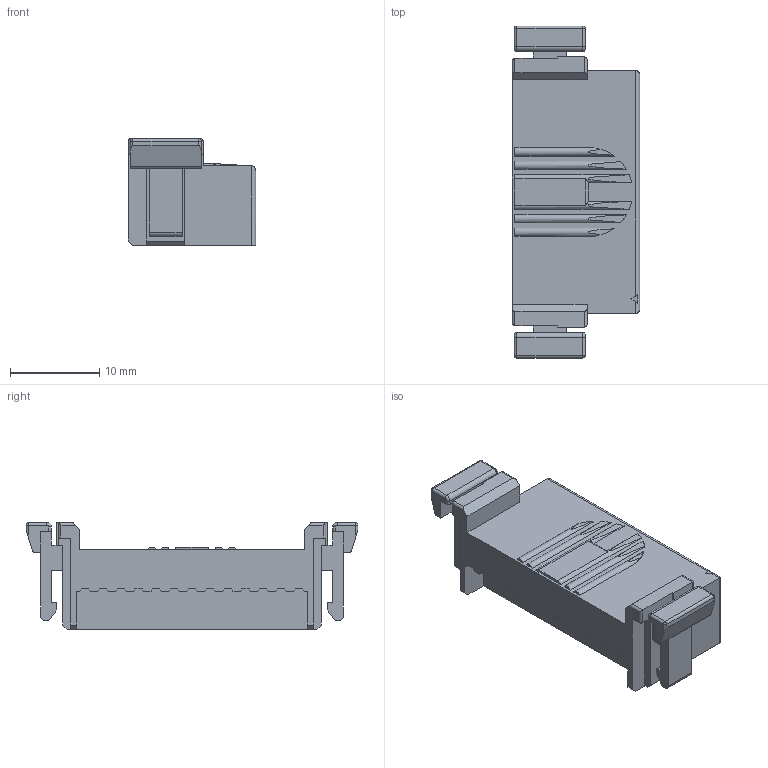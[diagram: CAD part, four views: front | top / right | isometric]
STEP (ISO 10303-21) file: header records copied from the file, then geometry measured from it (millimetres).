
FILE_DESCRIPTION(('CoCreate Modeling STEP Export'),'2;1');
FILE_NAME('P3D347_FBC02-026-1.stp','2017-06-23T17:43:44',(''),(''),'CoCreate Modeling STEP processor for AP214 (Solid Model)','CoCreate Modeling 17.0B 09-Oct-2010 (C) Parametric Technology GmbH','');
FILE_SCHEMA(('AUTOMOTIVE_DESIGN { 1 0 10303 214 1 1 1 1 }'));
Length unit declared in the file: millimetre
Products named in the file (2): FBC02-026-1
Assembly tree (1 placements, depth 2):
  FBC02-026-1
    FBC02-026-1
Bounding box: 14.3 x 37.25 x 12 mm (x, y, z)
Volume: 3523.2 mm3; surface area: 2141.8 mm2
Topology: 1 solids, 1 shells, 456 faces, 1200 edges, 786 vertices
Faces by surface type: plane 400, cylinder 48, sphere 4, torus 4
Entity records: 13951 total; most frequent: CARTESIAN_POINT 2666, ORIENTED_EDGE 2392, DIRECTION 2156, EDGE_CURVE 1196, VECTOR 1072, LINE 1072, VERTEX_POINT 786, AXIS2_PLACEMENT_3D 542
